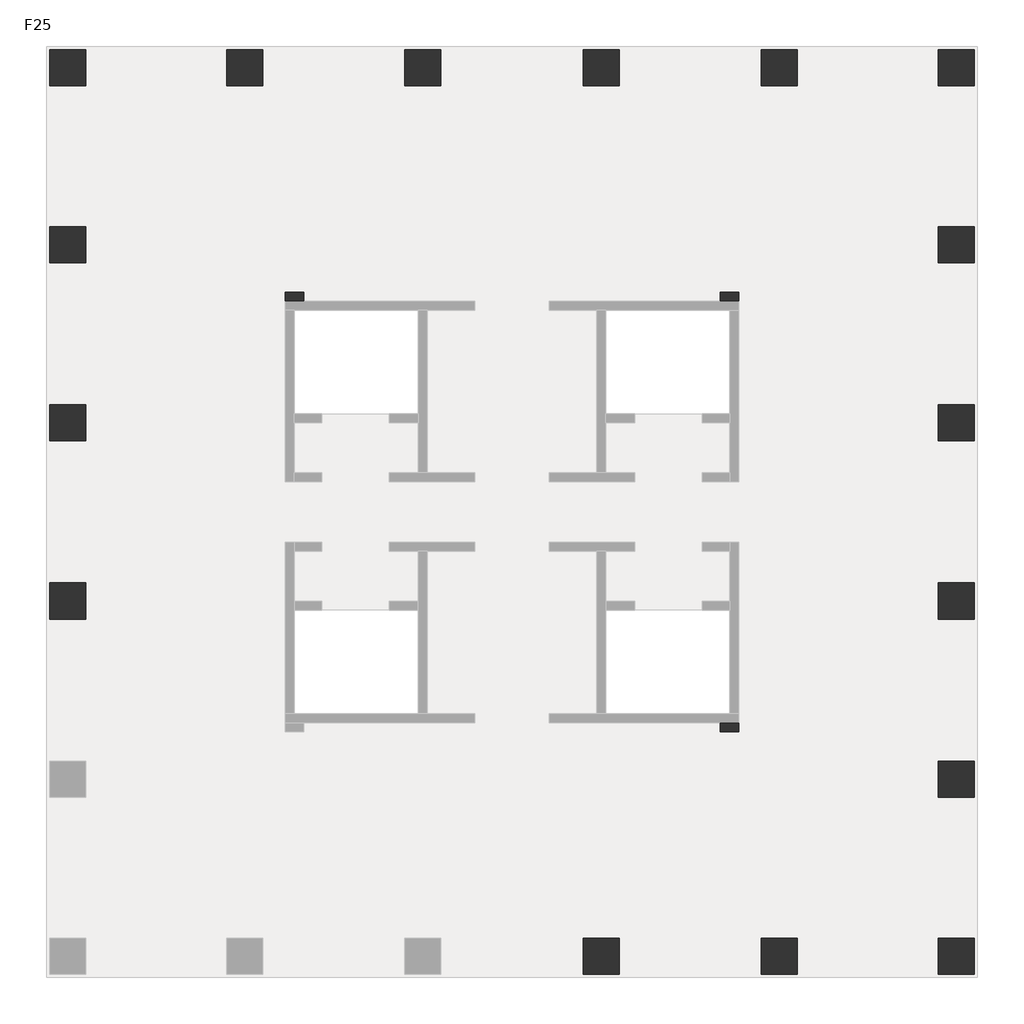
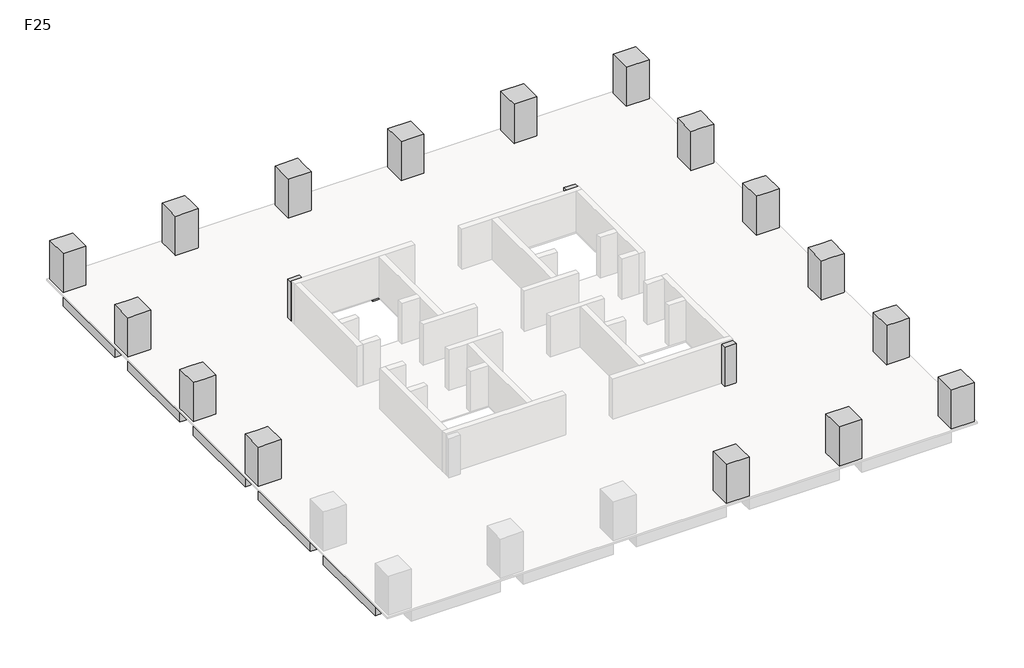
# One storey, part 2 of 2: 19 columns, 17 beams.
"""IFC4 building model written with IfcOpenShell, lengths in millimetres."""

from ifc_helpers import new_model, si_unit, frame, origin, place, context, project, spatial, polyline, outline, extrude, faceted_brep, element, save

model = new_model("IFC4")

# Units and contexts
model_context = context("Model", 3, world=origin())
ifc_project = project(units=[si_unit("LENGTHUNIT", "METRE", prefix="MILLI")], contexts=[model_context])

# Site, building, storey
site = spatial("IfcSite", under=ifc_project)
building = spatial("IfcBuilding", under=site)
storey = spatial("IfcBuildingStorey", under=building, Name="F25", Elevation=93000.0)

# Beams
placement = place(None, origin())
element("IfcBeam", 1, ObjectType="混凝土 - 矩形梁 : KL(5)-800x1000", at=placement, inside=storey, context=model_context, shape_type="SweptSolid", body=[
    extrude(outline(polyline([(25327.3257831, 27051.0498658), (25327.3257831, 26251.0498658), (19077.3257831, 26251.0498658), (19077.3257831, 27051.0498658), (25327.3257831, 27051.0498658)])), frame((0.0, 0.0, 92000.0), z_axis=(0.0, 0.0, 1.0), x_axis=(1.0, 0.0, 0.0)), (0.0, 0.0, 1.0), 900.0),
    extrude(outline(polyline([(-12472.6742169, 26251.0498658), (-12472.6742169, 27051.0498658), (-6222.6742169, 27051.0498658), (-6222.6742169, 26251.0498658), (-12472.6742169, 26251.0498658)])), frame((0.0, 0.0, 92000.0), z_axis=(0.0, 0.0, 1.0), x_axis=(1.0, 0.0, 0.0)), (0.0, 0.0, 1.0), 900.0),
    extrude(outline(polyline([(-4622.6742169, 26251.0498658), (-4622.6742169, 27051.0498658), (1677.3257831, 27051.0498658), (1677.3257831, 26251.0498658), (-4622.6742169, 26251.0498658)])), frame((0.0, 0.0, 92000.0), z_axis=(0.0, 0.0, 1.0), x_axis=(1.0, 0.0, 0.0)), (0.0, 0.0, 1.0), 900.0),
    extrude(outline(polyline([(3277.3257831, 26251.0498658), (3277.3257831, 27051.0498658), (9577.3257831, 27051.0498658), (9577.3257831, 26251.0498658), (3277.3257831, 26251.0498658)])), frame((0.0, 0.0, 92000.0), z_axis=(0.0, 0.0, 1.0), x_axis=(1.0, 0.0, 0.0)), (0.0, 0.0, 1.0), 900.0),
    extrude(outline(polyline([(11177.3257831, 26251.0498658), (11177.3257831, 27051.0498658), (17477.3257831, 27051.0498658), (17477.3257831, 26251.0498658), (11177.3257831, 26251.0498658)])), frame((0.0, 0.0, 92000.0), z_axis=(0.0, 0.0, 1.0), x_axis=(1.0, 0.0, 0.0)), (0.0, 0.0, 1.0), 900.0),
])
element("IfcBeam", 2, ObjectType="混凝土 - 矩形梁 : KL(5)-800x1000", at=placement, inside=storey, context=model_context, shape_type="SweptSolid", body=[
    extrude(outline(polyline([(26927.3257831, -12348.9501342), (26127.3257831, -12348.9501342), (26127.3257831, -6098.9501342), (26927.3257831, -6098.9501342), (26927.3257831, -12348.9501342)])), frame((0.0, 0.0, 92000.0), z_axis=(0.0, 0.0, 1.0), x_axis=(1.0, 0.0, 0.0)), (0.0, 0.0, 1.0), 900.0),
    extrude(outline(polyline([(26127.3257831, 25451.0498658), (26927.3257831, 25451.0498658), (26927.3257831, 19201.0498658), (26127.3257831, 19201.0498658), (26127.3257831, 25451.0498658)])), frame((0.0, 0.0, 92000.0), z_axis=(0.0, 0.0, 1.0), x_axis=(1.0, 0.0, 0.0)), (0.0, 0.0, 1.0), 900.0),
    extrude(outline(polyline([(26127.3257831, 17601.0498658), (26927.3257831, 17601.0498658), (26927.3257831, 11301.0498658), (26127.3257831, 11301.0498658), (26127.3257831, 17601.0498658)])), frame((0.0, 0.0, 92000.0), z_axis=(0.0, 0.0, 1.0), x_axis=(1.0, 0.0, 0.0)), (0.0, 0.0, 1.0), 900.0),
    extrude(outline(polyline([(26127.3257831, 9701.0498658), (26927.3257831, 9701.0498658), (26927.3257831, 3401.0498658), (26127.3257831, 3401.0498658), (26127.3257831, 9701.0498658)])), frame((0.0, 0.0, 92000.0), z_axis=(0.0, 0.0, 1.0), x_axis=(1.0, 0.0, 0.0)), (0.0, 0.0, 1.0), 900.0),
    extrude(outline(polyline([(26127.3257831, 1801.0498658), (26927.3257831, 1801.0498658), (26927.3257831, -4498.9501342), (26127.3257831, -4498.9501342), (26127.3257831, 1801.0498658)])), frame((0.0, 0.0, 92000.0), z_axis=(0.0, 0.0, 1.0), x_axis=(1.0, 0.0, 0.0)), (0.0, 0.0, 1.0), 900.0),
])
element("IfcBeam", 3, ObjectType="混凝土 - 矩形梁 : KL(5)-800x1000", at=placement, inside=storey, context=model_context, shape_type="SweptSolid", body=[
    extrude(outline(polyline([(-14072.6742169, 25451.0498658), (-13272.6742169, 25451.0498658), (-13272.6742169, 19201.0498658), (-14072.6742169, 19201.0498658), (-14072.6742169, 25451.0498658)])), frame((0.0, 0.0, 92000.0), z_axis=(0.0, 0.0, 1.0), x_axis=(1.0, 0.0, 0.0)), (0.0, 0.0, 1.0), 900.0),
    extrude(outline(polyline([(-13272.6742169, -12348.9501342), (-14072.6742169, -12348.9501342), (-14072.6742169, -6098.9501342), (-13272.6742169, -6098.9501342), (-13272.6742169, -12348.9501342)])), frame((0.0, 0.0, 92000.0), z_axis=(0.0, 0.0, 1.0), x_axis=(1.0, 0.0, 0.0)), (0.0, 0.0, 1.0), 900.0),
    extrude(outline(polyline([(-14072.6742169, 17601.0498658), (-13272.6742169, 17601.0498658), (-13272.6742169, 11301.0498658), (-14072.6742169, 11301.0498658), (-14072.6742169, 17601.0498658)])), frame((0.0, 0.0, 92000.0), z_axis=(0.0, 0.0, 1.0), x_axis=(1.0, 0.0, 0.0)), (0.0, 0.0, 1.0), 900.0),
    extrude(outline(polyline([(-14072.6742169, 9701.0498658), (-13272.6742169, 9701.0498658), (-13272.6742169, 3401.0498658), (-14072.6742169, 3401.0498658), (-14072.6742169, 9701.0498658)])), frame((0.0, 0.0, 92000.0), z_axis=(0.0, 0.0, 1.0), x_axis=(1.0, 0.0, 0.0)), (0.0, 0.0, 1.0), 900.0),
    extrude(outline(polyline([(-14072.6742169, 1801.0498658), (-13272.6742169, 1801.0498658), (-13272.6742169, -4498.9501342), (-14072.6742169, -4498.9501342), (-14072.6742169, 1801.0498658)])), frame((0.0, 0.0, 92000.0), z_axis=(0.0, 0.0, 1.0), x_axis=(1.0, 0.0, 0.0)), (0.0, 0.0, 1.0), 900.0),
])
element("IfcBeam", 4, ObjectType="混凝土 - 矩形梁 : L1-800x500", at=placement, inside=storey, context=model_context, shape_type="SweptSolid", body=[
    extrude(outline(polyline([(-12472.6742169, 2201.0498658), (-12472.6742169, 3001.0498658), (-3622.6742169, 3001.0498658), (-3622.6742169, 2201.0498658), (-12472.6742169, 2201.0498658)])), frame((0.0, 0.0, 92500.0), z_axis=(0.0, 0.0, 1.0), x_axis=(1.0, 0.0, 0.0)), (0.0, 0.0, 1.0), 400.0),
])
element("IfcBeam", 5, ObjectType="混凝土 - 矩形梁 : L1-800x500", at=placement, inside=storey, context=model_context, shape_type="SweptSolid", body=[
    extrude(outline(polyline([(-12472.6742169, 10101.0498658), (-12472.6742169, 10901.0498658), (-3622.6742169, 10901.0498658), (-3622.6742169, 10101.0498658), (-12472.6742169, 10101.0498658)])), frame((0.0, 0.0, 92500.0), z_axis=(0.0, 0.0, 1.0), x_axis=(1.0, 0.0, 0.0)), (0.0, 0.0, 1.0), 400.0),
])
element("IfcBeam", 6, ObjectType="混凝土 - 矩形梁 : L1-800x500", at=placement, inside=storey, context=model_context, shape_type="Brep", body=[
    faceted_brep([(-12472.6742169, 17789.85471, 92500.0), (-3622.6742169, 15588.3621727, 92500.0), (-3622.6742169, 15588.3621727, 92900.0), (-12472.6742169, 17789.85471, 92900.0), (-3173.6696907, 16301.0498658, 92500.0), (-3622.6742169, 16301.0498658, 92500.0), (-3622.6742169, 15901.0498658, 92500.0), (-12472.6742169, 18614.2350714, 92500.0), (-3746.9473979, 16443.6562607, 92500.0), (-12472.6742169, 18614.2350714, 92900.0), (-3746.9473979, 16443.6562607, 92900.0), (-3173.6696907, 16301.0498658, 92900.0), (-3622.6742169, 16301.0498658, 92900.0)], [[[0, 1, 2, 3]], [[4, 5, 6, 1, 0, 7, 8]], [[4, 8, 7, 9, 10, 11]], [[6, 5, 12, 2, 1]], [[5, 4, 11, 12]], [[7, 0, 3, 9]], [[3, 2, 12, 11, 10, 9]]]),
])
element("IfcBeam", 7, ObjectType="混凝土 - 矩形梁 : L1-800x500", at=placement, inside=storey, context=model_context, shape_type="SweptSolid", body=[
    extrude(outline(polyline([(-3173.6696907, 16301.0498658), (-3746.9473979, 16443.6562607), (-5661.5624638, 25451.0498658), (-4843.6893517, 25451.0498658), (-2898.7618154, 16301.0498658), (-3173.6696907, 16301.0498658)])), frame((0.0, 0.0, 92500.0), z_axis=(0.0, 0.0, 1.0), x_axis=(1.0, 0.0, 0.0)), (0.0, 0.0, 1.0), 400.0),
])
element("IfcBeam", 8, ObjectType="混凝土 - 矩形梁 : L1-800x500", at=placement, inside=storey, context=model_context, shape_type="SweptSolid", body=[
    extrude(outline(polyline([(2077.3257831, 25451.0498658), (2877.3257831, 25451.0498658), (2877.3257831, 15901.0498658), (2077.3257831, 15901.0498658), (2077.3257831, 25451.0498658)])), frame((0.0, 0.0, 92500.0), z_axis=(0.0, 0.0, 1.0), x_axis=(1.0, 0.0, 0.0)), (0.0, 0.0, 1.0), 400.0),
])
element("IfcBeam", 9, ObjectType="混凝土 - 矩形梁 : L1-800x500", at=placement, inside=storey, context=model_context, shape_type="SweptSolid", body=[
    extrude(outline(polyline([(9977.3257831, 25451.0498658), (10777.3257831, 25451.0498658), (10777.3257831, 15901.0498658), (9977.3257831, 15901.0498658), (9977.3257831, 25451.0498658)])), frame((0.0, 0.0, 92500.0), z_axis=(0.0, 0.0, 1.0), x_axis=(1.0, 0.0, 0.0)), (0.0, 0.0, 1.0), 400.0),
])
element("IfcBeam", 10, ObjectType="混凝土 - 矩形梁 : L1-800x500", at=placement, inside=storey, context=model_context, shape_type="SweptSolid", body=[
    extrude(outline(polyline([(2877.3257831, -12348.9501342), (2077.3257831, -12348.9501342), (2077.3257831, -2798.9501342), (2877.3257831, -2798.9501342), (2877.3257831, -12348.9501342)])), frame((0.0, 0.0, 92500.0), z_axis=(0.0, 0.0, 1.0), x_axis=(1.0, 0.0, 0.0)), (0.0, 0.0, 1.0), 400.0),
])
element("IfcBeam", 11, ObjectType="混凝土 - 矩形梁 : L1-800x500", at=placement, inside=storey, context=model_context, shape_type="SweptSolid", body=[
    extrude(outline(polyline([(10777.3257831, -12348.9501342), (9977.3257831, -12348.9501342), (9977.3257831, -2798.9501342), (10777.3257831, -2798.9501342), (10777.3257831, -12348.9501342)])), frame((0.0, 0.0, 92500.0), z_axis=(0.0, 0.0, 1.0), x_axis=(1.0, 0.0, 0.0)), (0.0, 0.0, 1.0), 400.0),
])
element("IfcBeam", 12, ObjectType="混凝土 - 矩形梁 : L1-800x500", at=placement, inside=storey, context=model_context, shape_type="Brep", body=[
    faceted_brep([(25327.3257831, -4687.7549784, 92500.0), (16477.3257831, -2486.2624411, 92500.0), (16477.3257831, -2486.2624411, 92900.0), (25327.3257831, -4687.7549784, 92900.0), (16028.3212569, -3198.9501342, 92500.0), (16477.3257831, -3198.9501342, 92500.0), (16477.3257831, -2798.9501342, 92500.0), (25327.3257831, -5512.1353397, 92500.0), (16601.5989641, -3341.556529, 92500.0), (25327.3257831, -5512.1353397, 92900.0), (16601.5989641, -3341.556529, 92900.0), (16028.3212569, -3198.9501342, 92900.0), (16477.3257831, -3198.9501342, 92900.0)], [[[0, 1, 2, 3]], [[4, 5, 6, 1, 0, 7, 8]], [[4, 8, 7, 9, 10, 11]], [[6, 5, 12, 2, 1]], [[5, 4, 11, 12]], [[7, 0, 3, 9]], [[3, 2, 12, 11, 10, 9]]]),
])
element("IfcBeam", 13, ObjectType="混凝土 - 矩形梁 : L1-800x500", at=placement, inside=storey, context=model_context, shape_type="SweptSolid", body=[
    extrude(outline(polyline([(16028.3212569, -3198.9501342), (16601.5989641, -3341.556529), (18516.21403, -12348.9501342), (17698.3409179, -12348.9501342), (15753.4133817, -3198.9501342), (16028.3212569, -3198.9501342)])), frame((0.0, 0.0, 92500.0), z_axis=(0.0, 0.0, 1.0), x_axis=(1.0, 0.0, 0.0)), (0.0, 0.0, 1.0), 400.0),
])
element("IfcBeam", 14, ObjectType="混凝土 - 矩形梁 : L1-800x500", at=placement, inside=storey, context=model_context, shape_type="SweptSolid", body=[
    extrude(outline(polyline([(25327.3257831, 3001.0498658), (25327.3257831, 2201.0498658), (16477.3257831, 2201.0498658), (16477.3257831, 3001.0498658), (25327.3257831, 3001.0498658)])), frame((0.0, 0.0, 92500.0), z_axis=(0.0, 0.0, 1.0), x_axis=(1.0, 0.0, 0.0)), (0.0, 0.0, 1.0), 400.0),
])
element("IfcBeam", 15, ObjectType="混凝土 - 矩形梁 : L1-800x500", at=placement, inside=storey, context=model_context, shape_type="SweptSolid", body=[
    extrude(outline(polyline([(25327.3257831, 10901.0498658), (25327.3257831, 10101.0498658), (16477.3257831, 10101.0498658), (16477.3257831, 10901.0498658), (25327.3257831, 10901.0498658)])), frame((0.0, 0.0, 92500.0), z_axis=(0.0, 0.0, 1.0), x_axis=(1.0, 0.0, 0.0)), (0.0, 0.0, 1.0), 400.0),
])
element("IfcBeam", 16, ObjectType="混凝土 - 矩形梁 : L1-800x500", at=placement, inside=storey, context=model_context, shape_type="Brep", body=[
    faceted_brep([(25327.3257831, 18610.6867312, 92500.0), (16590.8993897, 16393.3196262, 92500.0), (16227.3565337, 16301.0498658, 92500.0), (16227.3565337, 16301.0498658, 92900.0), (16590.8993897, 16393.3196262, 92900.0), (25327.3257831, 18610.6867312, 92900.0), (16477.3257831, 16301.0498658, 92500.0), (25327.3257831, 17785.3216299, 92500.0), (16477.3257831, 15539.1287365, 92500.0), (16477.3257831, 15901.0498658, 92500.0), (25327.3257831, 17785.3216299, 92900.0), (16477.3257831, 15539.1287365, 92900.0), (16477.3257831, 16301.0498658, 92900.0)], [[[0, 1, 2, 3, 4, 5]], [[6, 2, 1, 0, 7, 8, 9]], [[8, 7, 10, 11]], [[9, 8, 11, 12, 6]], [[2, 6, 12, 3]], [[7, 0, 5, 10]], [[5, 4, 3, 12, 11, 10]]]),
])
element("IfcBeam", 17, ObjectType="混凝土 - 矩形梁 : L1-800x500", at=placement, inside=storey, context=model_context, shape_type="SweptSolid", body=[
    extrude(outline(polyline([(16590.8993897, 16393.3196262), (16227.3565337, 16301.0498658), (15753.4133817, 16301.0498658), (17698.3409179, 25451.0498658), (18516.21403, 25451.0498658), (16590.8993897, 16393.3196262)])), frame((0.0, 0.0, 92500.0), z_axis=(0.0, 0.0, 1.0), x_axis=(1.0, 0.0, 0.0)), (0.0, 0.0, 1.0), 400.0),
])

# Columns
element("IfcColumn", 18, ObjectType="混凝土 - 矩形 - 柱 : Z1-1600x1600", at=placement, inside=storey, context=model_context, shape_type="SweptSolid", body=[
    extrude(outline(polyline([(-12472.6742169, 27051.0498658), (-12472.6742169, 25451.0498658), (-14072.6742169, 25451.0498658), (-14072.6742169, 27051.0498658), (-12472.6742169, 27051.0498658)])), frame((0.0, 0.0, 93000.0), z_axis=(0.0, 0.0, 1.0), x_axis=(1.0, 0.0, 0.0)), (0.0, 0.0, 1.0), 2900.0),
])
element("IfcColumn", 19, ObjectType="混凝土 - 矩形 - 柱 : Z1-1600x1600", at=placement, inside=storey, context=model_context, shape_type="Brep", body=[
    faceted_brep([(-4622.6742169, 27051.0498658, 93000.0), (-4622.6742169, 25451.0498658, 93000.0), (-6222.6742169, 25451.0498658, 93000.0), (-6222.6742169, 27051.0498658, 93000.0), (-4622.6742169, 27051.0498658, 95000.0), (-4622.6742169, 27051.0498658, 95900.0), (-4622.6742169, 26251.0498658, 95900.0), (-4622.6742169, 25451.0498658, 95900.0), (-6222.6742169, 25451.0498658, 95900.0), (-6222.6742169, 26251.0498658, 95900.0), (-6222.6742169, 27051.0498658, 95900.0), (-6222.6742169, 27051.0498658, 95000.0)], [[[0, 1, 2, 3]], [[1, 0, 4, 5, 6, 7]], [[2, 1, 7, 8]], [[3, 2, 8, 9, 10, 11]], [[0, 3, 11, 10, 5, 4]], [[7, 6, 5, 10, 9, 8]]]),
])
element("IfcColumn", 20, ObjectType="混凝土 - 矩形 - 柱 : Z1-1600x1600", at=placement, inside=storey, context=model_context, shape_type="Brep", body=[
    faceted_brep([(-12472.6742169, 19201.0498658, 93000.0), (-12472.6742169, 17601.0498658, 93000.0), (-14072.6742169, 17601.0498658, 93000.0), (-14072.6742169, 19201.0498658, 93000.0), (-12472.6742169, 19201.0498658, 95900.0), (-12472.6742169, 17601.0498658, 95900.0), (-13272.6742169, 17601.0498658, 95900.0), (-14072.6742169, 17601.0498658, 95900.0), (-14072.6742169, 17601.0498658, 95000.0), (-14072.6742169, 19201.0498658, 95900.0), (-14072.6742169, 19201.0498658, 95000.0), (-13272.6742169, 19201.0498658, 95900.0)], [[[0, 1, 2, 3]], [[1, 0, 4, 5]], [[2, 1, 5, 6, 7, 8]], [[3, 2, 8, 7, 9, 10]], [[0, 3, 10, 9, 11, 4]], [[5, 4, 11, 9, 7, 6]]]),
])
element("IfcColumn", 21, ObjectType="混凝土 - 矩形 - 柱 : Z1-1600x1600", at=placement, inside=storey, context=model_context, shape_type="Brep", body=[
    faceted_brep([(-12472.6742169, 11301.0498658, 93000.0), (-12472.6742169, 9701.0498658, 93000.0), (-14072.6742169, 9701.0498658, 93000.0), (-14072.6742169, 11301.0498658, 93000.0), (-12472.6742169, 11301.0498658, 95900.0), (-12472.6742169, 9701.0498658, 95900.0), (-13272.6742169, 9701.0498658, 95900.0), (-14072.6742169, 9701.0498658, 95900.0), (-14072.6742169, 9701.0498658, 95000.0), (-14072.6742169, 11301.0498658, 95900.0), (-14072.6742169, 11301.0498658, 95000.0), (-13272.6742169, 11301.0498658, 95900.0)], [[[0, 1, 2, 3]], [[1, 0, 4, 5]], [[2, 1, 5, 6, 7, 8]], [[3, 2, 8, 7, 9, 10]], [[0, 3, 10, 9, 11, 4]], [[5, 4, 11, 9, 7, 6]]]),
])
element("IfcColumn", 22, ObjectType="混凝土 - 矩形 - 柱 : Z1-1600x1600", at=placement, inside=storey, context=model_context, shape_type="Brep", body=[
    faceted_brep([(-12472.6742169, 3401.0498658, 93000.0), (-12472.6742169, 1801.0498658, 93000.0), (-14072.6742169, 1801.0498658, 93000.0), (-14072.6742169, 3401.0498658, 93000.0), (-12472.6742169, 3401.0498658, 95900.0), (-12472.6742169, 1801.0498658, 95900.0), (-13272.6742169, 1801.0498658, 95900.0), (-14072.6742169, 1801.0498658, 95900.0), (-14072.6742169, 1801.0498658, 95000.0), (-14072.6742169, 3401.0498658, 95900.0), (-14072.6742169, 3401.0498658, 95000.0), (-13272.6742169, 3401.0498658, 95900.0)], [[[0, 1, 2, 3]], [[1, 0, 4, 5]], [[2, 1, 5, 6, 7, 8]], [[3, 2, 8, 7, 9, 10]], [[0, 3, 10, 9, 11, 4]], [[5, 4, 11, 9, 7, 6]]]),
])
element("IfcColumn", 23, ObjectType="混凝土 - 矩形 - 柱 : Z1-1600x1600", at=placement, inside=storey, context=model_context, shape_type="SweptSolid", body=[
    extrude(outline(polyline([(25327.3257831, 27051.0498658), (26927.3257831, 27051.0498658), (26927.3257831, 25451.0498658), (25327.3257831, 25451.0498658), (25327.3257831, 27051.0498658)])), frame((0.0, 0.0, 93000.0), z_axis=(0.0, 0.0, 1.0), x_axis=(1.0, 0.0, 0.0)), (0.0, 0.0, 1.0), 2900.0),
])
element("IfcColumn", 24, ObjectType="混凝土 - 矩形 - 柱 : Z1-1600x1600", at=placement, inside=storey, context=model_context, shape_type="Brep", body=[
    faceted_brep([(25327.3257831, 19201.0498658, 93000.0), (26927.3257831, 19201.0498658, 93000.0), (26927.3257831, 17601.0498658, 93000.0), (25327.3257831, 17601.0498658, 93000.0), (25327.3257831, 17601.0498658, 95900.0), (25327.3257831, 19201.0498658, 95900.0), (26927.3257831, 17601.0498658, 95000.0), (26927.3257831, 17601.0498658, 95900.0), (26127.3257831, 17601.0498658, 95900.0), (26927.3257831, 19201.0498658, 95000.0), (26927.3257831, 19201.0498658, 95900.0), (26127.3257831, 19201.0498658, 95900.0)], [[[0, 1, 2, 3]], [[0, 3, 4, 5]], [[3, 2, 6, 7, 8, 4]], [[2, 1, 9, 10, 7, 6]], [[1, 0, 5, 11, 10, 9]], [[5, 4, 8, 7, 10, 11]]]),
])
element("IfcColumn", 25, ObjectType="混凝土 - 矩形 - 柱 : Z1-1600x1600", at=placement, inside=storey, context=model_context, shape_type="Brep", body=[
    faceted_brep([(25327.3257831, 11301.0498658, 93000.0), (26927.3257831, 11301.0498658, 93000.0), (26927.3257831, 9701.0498658, 93000.0), (25327.3257831, 9701.0498658, 93000.0), (25327.3257831, 9701.0498658, 95900.0), (25327.3257831, 11301.0498658, 95900.0), (26927.3257831, 9701.0498658, 95000.0), (26927.3257831, 9701.0498658, 95900.0), (26127.3257831, 9701.0498658, 95900.0), (26927.3257831, 11301.0498658, 95000.0), (26927.3257831, 11301.0498658, 95900.0), (26127.3257831, 11301.0498658, 95900.0)], [[[0, 1, 2, 3]], [[0, 3, 4, 5]], [[3, 2, 6, 7, 8, 4]], [[2, 1, 9, 10, 7, 6]], [[1, 0, 5, 11, 10, 9]], [[5, 4, 8, 7, 10, 11]]]),
])
element("IfcColumn", 26, ObjectType="混凝土 - 矩形 - 柱 : Z1-1600x1600", at=placement, inside=storey, context=model_context, shape_type="Brep", body=[
    faceted_brep([(25327.3257831, 3401.0498658, 93000.0), (26927.3257831, 3401.0498658, 93000.0), (26927.3257831, 1801.0498658, 93000.0), (25327.3257831, 1801.0498658, 93000.0), (25327.3257831, 1801.0498658, 95900.0), (25327.3257831, 3401.0498658, 95900.0), (26927.3257831, 1801.0498658, 95000.0), (26927.3257831, 1801.0498658, 95900.0), (26127.3257831, 1801.0498658, 95900.0), (26927.3257831, 3401.0498658, 95000.0), (26927.3257831, 3401.0498658, 95900.0), (26127.3257831, 3401.0498658, 95900.0)], [[[0, 1, 2, 3]], [[0, 3, 4, 5]], [[3, 2, 6, 7, 8, 4]], [[2, 1, 9, 10, 7, 6]], [[1, 0, 5, 11, 10, 9]], [[5, 4, 8, 7, 10, 11]]]),
])
element("IfcColumn", 27, ObjectType="混凝土 - 矩形 - 柱 : Z1-1600x1600", at=placement, inside=storey, context=model_context, shape_type="Brep", body=[
    faceted_brep([(25327.3257831, -4498.9501342, 93000.0), (26927.3257831, -4498.9501342, 93000.0), (26927.3257831, -6098.9501342, 93000.0), (25327.3257831, -6098.9501342, 93000.0), (25327.3257831, -6098.9501342, 95900.0), (25327.3257831, -4498.9501342, 95900.0), (26927.3257831, -6098.9501342, 95000.0), (26927.3257831, -6098.9501342, 95900.0), (26127.3257831, -6098.9501342, 95900.0), (26927.3257831, -4498.9501342, 95000.0), (26927.3257831, -4498.9501342, 95900.0), (26127.3257831, -4498.9501342, 95900.0)], [[[0, 1, 2, 3]], [[0, 3, 4, 5]], [[3, 2, 6, 7, 8, 4]], [[2, 1, 9, 10, 7, 6]], [[1, 0, 5, 11, 10, 9]], [[5, 4, 8, 7, 10, 11]]]),
])
element("IfcColumn", 28, ObjectType="混凝土 - 矩形 - 柱 : Z1-1600x1600", at=placement, inside=storey, context=model_context, shape_type="SweptSolid", body=[
    extrude(outline(polyline([(25327.3257831, -12348.9501342), (26927.3257831, -12348.9501342), (26927.3257831, -13948.9501342), (25327.3257831, -13948.9501342), (25327.3257831, -12348.9501342)])), frame((0.0, 0.0, 93000.0), z_axis=(0.0, 0.0, 1.0), x_axis=(1.0, 0.0, 0.0)), (0.0, 0.0, 1.0), 2900.0),
])
element("IfcColumn", 29, ObjectType="混凝土 - 矩形 - 柱 : Z1-1600x1600", at=placement, inside=storey, context=model_context, shape_type="Brep", body=[
    faceted_brep([(3277.3257831, 27051.0498658, 93000.0), (3277.3257831, 25451.0498658, 93000.0), (1677.3257831, 25451.0498658, 93000.0), (1677.3257831, 27051.0498658, 93000.0), (3277.3257831, 27051.0498658, 95000.0), (3277.3257831, 27051.0498658, 95900.0), (3277.3257831, 26251.0498658, 95900.0), (3277.3257831, 25451.0498658, 95900.0), (1677.3257831, 25451.0498658, 95900.0), (1677.3257831, 26251.0498658, 95900.0), (1677.3257831, 27051.0498658, 95900.0), (1677.3257831, 27051.0498658, 95000.0)], [[[0, 1, 2, 3]], [[1, 0, 4, 5, 6, 7]], [[2, 1, 7, 8]], [[3, 2, 8, 9, 10, 11]], [[0, 3, 11, 10, 5, 4]], [[7, 6, 5, 10, 9, 8]]]),
])
element("IfcColumn", 30, ObjectType="混凝土 - 矩形 - 柱 : Z1-1600x1600", at=placement, inside=storey, context=model_context, shape_type="Brep", body=[
    faceted_brep([(11177.3257831, 27051.0498658, 93000.0), (11177.3257831, 25451.0498658, 93000.0), (9577.3257831, 25451.0498658, 93000.0), (9577.3257831, 27051.0498658, 93000.0), (11177.3257831, 27051.0498658, 95000.0), (11177.3257831, 27051.0498658, 95900.0), (11177.3257831, 26251.0498658, 95900.0), (11177.3257831, 25451.0498658, 95900.0), (9577.3257831, 25451.0498658, 95900.0), (9577.3257831, 26251.0498658, 95900.0), (9577.3257831, 27051.0498658, 95900.0), (9577.3257831, 27051.0498658, 95000.0)], [[[0, 1, 2, 3]], [[1, 0, 4, 5, 6, 7]], [[2, 1, 7, 8]], [[3, 2, 8, 9, 10, 11]], [[0, 3, 11, 10, 5, 4]], [[7, 6, 5, 10, 9, 8]]]),
])
element("IfcColumn", 31, ObjectType="混凝土 - 矩形 - 柱 : Z1-1600x1600", at=placement, inside=storey, context=model_context, shape_type="Brep", body=[
    faceted_brep([(19077.3257831, 27051.0498658, 93000.0), (19077.3257831, 25451.0498658, 93000.0), (17477.3257831, 25451.0498658, 93000.0), (17477.3257831, 27051.0498658, 93000.0), (19077.3257831, 27051.0498658, 95000.0), (19077.3257831, 27051.0498658, 95900.0), (19077.3257831, 26251.0498658, 95900.0), (19077.3257831, 25451.0498658, 95900.0), (17477.3257831, 25451.0498658, 95900.0), (17477.3257831, 26251.0498658, 95900.0), (17477.3257831, 27051.0498658, 95900.0), (17477.3257831, 27051.0498658, 95000.0)], [[[0, 1, 2, 3]], [[1, 0, 4, 5, 6, 7]], [[2, 1, 7, 8]], [[3, 2, 8, 9, 10, 11]], [[0, 3, 11, 10, 5, 4]], [[7, 6, 5, 10, 9, 8]]]),
])
element("IfcColumn", 32, ObjectType="混凝土 - 矩形 - 柱 : Z1-1600x1600", at=placement, inside=storey, context=model_context, shape_type="Brep", body=[
    faceted_brep([(11177.3257831, -12348.9501342, 93000.0), (11177.3257831, -13948.9501342, 93000.0), (9577.3257831, -13948.9501342, 93000.0), (9577.3257831, -12348.9501342, 93000.0), (11177.3257831, -12348.9501342, 95900.0), (11177.3257831, -13148.9501342, 95900.0), (11177.3257831, -13948.9501342, 95900.0), (11177.3257831, -13948.9501342, 95000.0), (9577.3257831, -13948.9501342, 95900.0), (9577.3257831, -13948.9501342, 95000.0), (9577.3257831, -13148.9501342, 95900.0), (9577.3257831, -12348.9501342, 95900.0)], [[[0, 1, 2, 3]], [[1, 0, 4, 5, 6, 7]], [[2, 1, 7, 6, 8, 9]], [[3, 2, 9, 8, 10, 11]], [[0, 3, 11, 4]], [[6, 5, 4, 11, 10, 8]]]),
])
element("IfcColumn", 33, ObjectType="混凝土 - 矩形 - 柱 : Z1-1600x1600", at=placement, inside=storey, context=model_context, shape_type="Brep", body=[
    faceted_brep([(19077.3257831, -12348.9501342, 93000.0), (19077.3257831, -13948.9501342, 93000.0), (17477.3257831, -13948.9501342, 93000.0), (17477.3257831, -12348.9501342, 93000.0), (19077.3257831, -12348.9501342, 95900.0), (19077.3257831, -13148.9501342, 95900.0), (19077.3257831, -13948.9501342, 95900.0), (19077.3257831, -13948.9501342, 95000.0), (17477.3257831, -13948.9501342, 95900.0), (17477.3257831, -13948.9501342, 95000.0), (17477.3257831, -13148.9501342, 95900.0), (17477.3257831, -12348.9501342, 95900.0)], [[[0, 1, 2, 3]], [[1, 0, 4, 5, 6, 7]], [[2, 1, 7, 6, 8, 9]], [[3, 2, 9, 8, 10, 11]], [[0, 3, 11, 4]], [[6, 5, 4, 11, 10, 8]]]),
])
element("IfcColumn", 34, ObjectType="混凝土 - 矩形 - 柱 : Z2-800x800", at=placement, inside=storey, context=model_context, shape_type="SweptSolid", body=[
    extrude(outline(polyline([(-3622.6742169, 16301.0498658), (-2822.6742169, 16301.0498658), (-2822.6742169, 15901.0498658), (-3622.6742169, 15901.0498658), (-3622.6742169, 16301.0498658)])), frame((0.0, 0.0, 93000.0), z_axis=(0.0, 0.0, 1.0), x_axis=(1.0, 0.0, 0.0)), (0.0, 0.0, 1.0), 2900.0),
])
element("IfcColumn", 35, ObjectType="混凝土 - 矩形 - 柱 : Z2-800x800", at=placement, inside=storey, context=model_context, shape_type="SweptSolid", body=[
    extrude(outline(polyline([(16477.3257831, -3198.9501342), (15677.3257831, -3198.9501342), (15677.3257831, -2798.9501342), (16477.3257831, -2798.9501342), (16477.3257831, -3198.9501342)])), frame((0.0, 0.0, 93000.0), z_axis=(0.0, 0.0, 1.0), x_axis=(1.0, 0.0, 0.0)), (0.0, 0.0, 1.0), 2900.0),
])
element("IfcColumn", 36, ObjectType="混凝土 - 矩形 - 柱 : Z2-800x800", at=placement, inside=storey, context=model_context, shape_type="SweptSolid", body=[
    extrude(outline(polyline([(15677.3257831, 16301.0498658), (16477.3257831, 16301.0498658), (16477.3257831, 15901.0498658), (15677.3257831, 15901.0498658), (15677.3257831, 16301.0498658)])), frame((0.0, 0.0, 93000.0), z_axis=(0.0, 0.0, 1.0), x_axis=(1.0, 0.0, 0.0)), (0.0, 0.0, 1.0), 2900.0),
])

save(model, "model.ifc")
